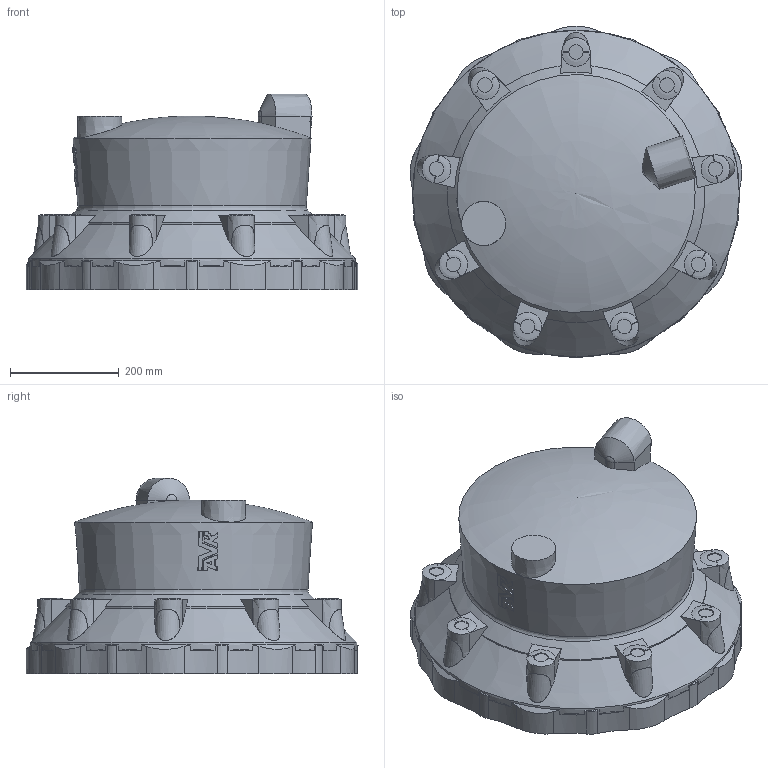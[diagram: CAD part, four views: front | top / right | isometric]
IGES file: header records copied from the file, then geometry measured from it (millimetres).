
Start section: SolidWorks IGES file using analytic representation for surfaces
Global section: file name: \\avksan2\techshare\PBM outline export from Enovia\O_634_00_DN350_AA0.igs; native system: SolidWorks 2012; preprocessor: SolidWorks 2012; author: pbm; date: 180703.080941; units: millimetre
Bounding box: 610.2 x 610.87 x 360.35 mm (x, y, z)
Surface area: 1232357.7 mm2 (no closed solid volume)
Topology: 0 solids, 0 shells, 392 faces, 2165 edges, 2157 vertices
Faces by surface type: revolution 216, bspline 176
